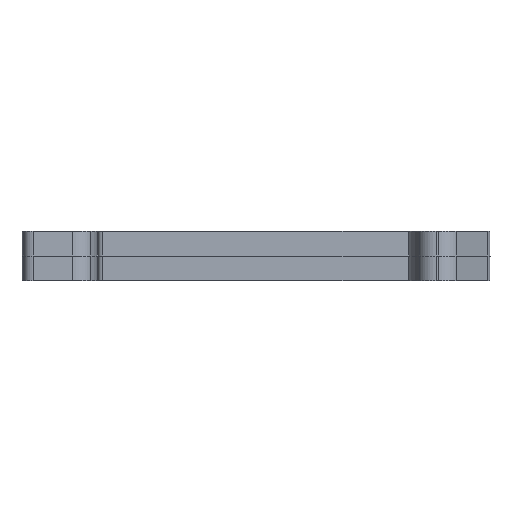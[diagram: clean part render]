
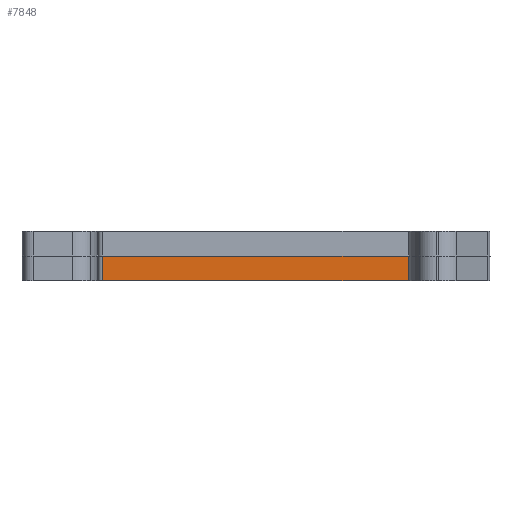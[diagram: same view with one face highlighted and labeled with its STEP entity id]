
A CAD part, front view. The second image highlights one B-rep face of the part: STEP entity #7848.
In plain terms, the highlighted planar face has unit normal (0, -1, 0).
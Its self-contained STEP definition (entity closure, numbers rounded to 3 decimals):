
#572=FACE_OUTER_BOUND('',#962,.T.);
#962=EDGE_LOOP('',(#5486,#5487,#5488,#5489));
#1641=LINE('',#11208,#2497);
#1745=LINE('',#11549,#2601);
#1746=LINE('',#11552,#2602);
#1747=LINE('',#11553,#2603);
#2497=VECTOR('',#8962,10.);
#2601=VECTOR('',#9224,5.15);
#2602=VECTOR('',#9227,33.18);
#2603=VECTOR('',#9228,5.15);
#3361=VERTEX_POINT('',#11205);
#3362=VERTEX_POINT('',#11207);
#3520=VERTEX_POINT('',#11547);
#3521=VERTEX_POINT('',#11551);
#4133=EDGE_CURVE('',#3361,#3362,#1641,.T.);
#4304=EDGE_CURVE('',#3520,#3361,#1745,.T.);
#4305=EDGE_CURVE('',#3520,#3521,#1746,.T.);
#4306=EDGE_CURVE('',#3362,#3521,#1747,.T.);
#5486=ORIENTED_EDGE('',*,*,#4133,.F.);
#5487=ORIENTED_EDGE('',*,*,#4304,.F.);
#5488=ORIENTED_EDGE('',*,*,#4305,.T.);
#5489=ORIENTED_EDGE('',*,*,#4306,.F.);
#7600=PLANE('',#8334);
#7848=ADVANCED_FACE('',(#572),#7600,.F.);
#8334=AXIS2_PLACEMENT_3D('',#11550,#9225,#9226);
#8962=DIRECTION('',(1.,0.,0.));
#9224=DIRECTION('',(0.,0.,1.));
#9225=DIRECTION('center_axis',(0.,1.,0.));
#9226=DIRECTION('ref_axis',(0.,0.,1.));
#9227=DIRECTION('',(1.,0.,0.));
#9228=DIRECTION('',(0.,0.,-1.));
#11205=CARTESIAN_POINT('',(-16.03,-11.625,2.625));
#11207=CARTESIAN_POINT('',(17.15,-11.625,2.625));
#11208=CARTESIAN_POINT('',(4.8,-11.625,2.625));
#11547=CARTESIAN_POINT('',(-16.03,-11.625,0.05));
#11549=CARTESIAN_POINT('',(-16.03,-11.625,0.05));
#11550=CARTESIAN_POINT('Origin',(9.6,-11.625,0.));
#11551=CARTESIAN_POINT('',(17.15,-11.625,0.05));
#11552=CARTESIAN_POINT('',(-16.03,-11.625,0.05));
#11553=CARTESIAN_POINT('',(17.15,-11.625,5.2));
